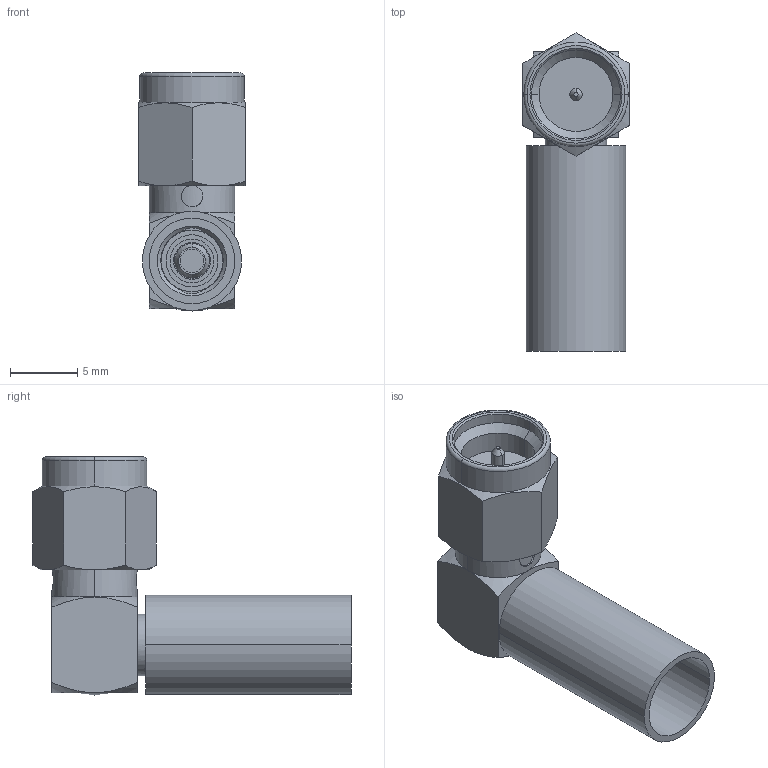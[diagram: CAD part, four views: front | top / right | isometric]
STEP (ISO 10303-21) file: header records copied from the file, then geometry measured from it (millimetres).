
FILE_DESCRIPTION (( 'STEP AP214' ), '1' );
FILE_NAME ('2913-6001.STEP', '2019-03-05T14:34:29', ( '' ), ( '' ), 'SwSTEP 2.0', 'SolidWorks 2016', '' );
FILE_SCHEMA (( 'AUTOMOTIVE_DESIGN' ));
Length unit declared in the file: inch
Products named in the file (1): 2913-6001
Bounding box: 7.92 x 23.6 x 17.67 mm (x, y, z)
Volume: 935.1 mm3; surface area: 1628 mm2
Topology: 2 solids, 5 shells, 105 faces, 234 edges, 146 vertices
Faces by surface type: cylinder 42, plane 29, cone 28, torus 6
Entity records: 4407 total; most frequent: CARTESIAN_POINT 874, DIRECTION 484, ORIENTED_EDGE 460, EDGE_CURVE 230, AXIS2_PLACEMENT_3D 208, VERTEX_POINT 146, EDGE_LOOP 118, ADVANCED_FACE 105
